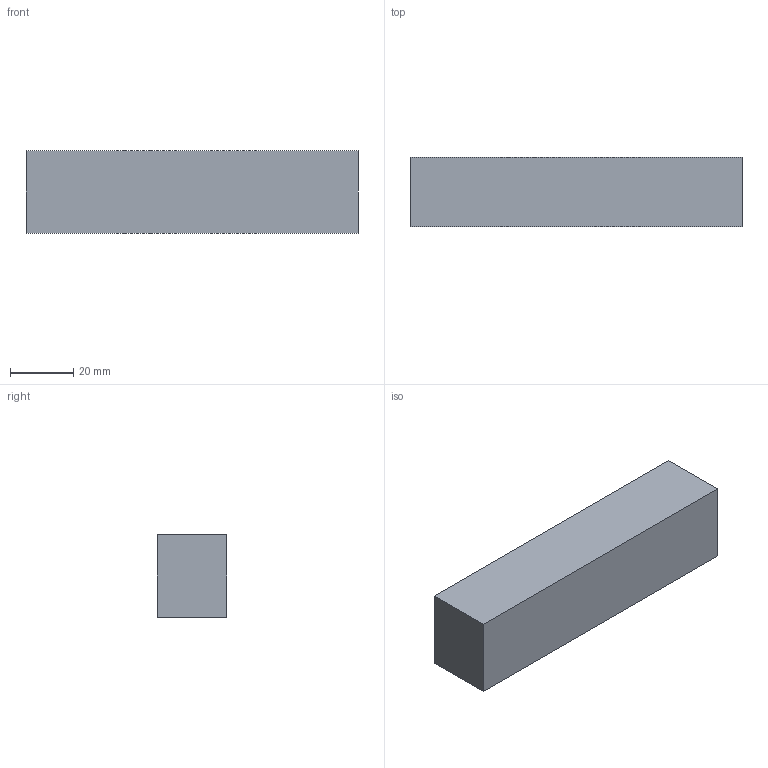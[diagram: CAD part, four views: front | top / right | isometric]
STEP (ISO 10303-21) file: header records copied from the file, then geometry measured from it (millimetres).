
FILE_DESCRIPTION(('Open CASCADE Model'),'2;1');
FILE_NAME('Open CASCADE Shape Model','2026-10-04T01:02:25',('Author'),( 'Open CASCADE'),'Open CASCADE STEP processor 8.0','Open CASCADE 8.0' ,'Unknown');
FILE_SCHEMA(('AUTOMOTIVE_DESIGN { 1 0 10303 214 1 1 1 1 }'));
Length unit declared in the file: millimetre
Products named in the file (1): Open CASCADE STEP translator 8.0 25
Bounding box: 105 x 22 x 26 mm (x, y, z)
Volume: 60060 mm3; surface area: 11224 mm2
Topology: 1 solids, 1 shells, 6 faces, 12 edges, 8 vertices
Faces by surface type: plane 6
Entity records: 322 total; most frequent: CARTESIAN_POINT 51, DIRECTION 50, LINE 36, VECTOR 36, ORIENTED_EDGE 24, PCURVE 24, DEFINITIONAL_REPRESENTATION 24, EDGE_CURVE 12
